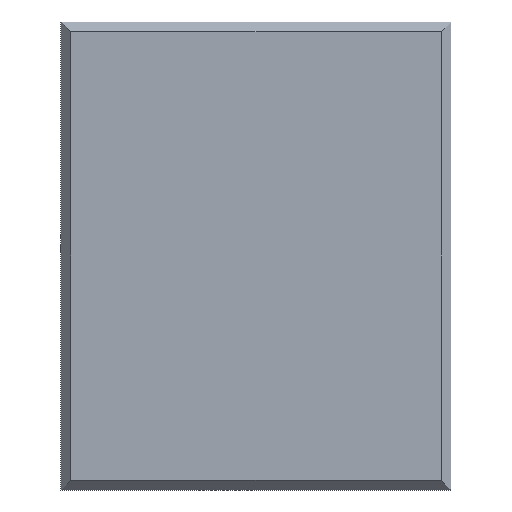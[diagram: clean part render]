
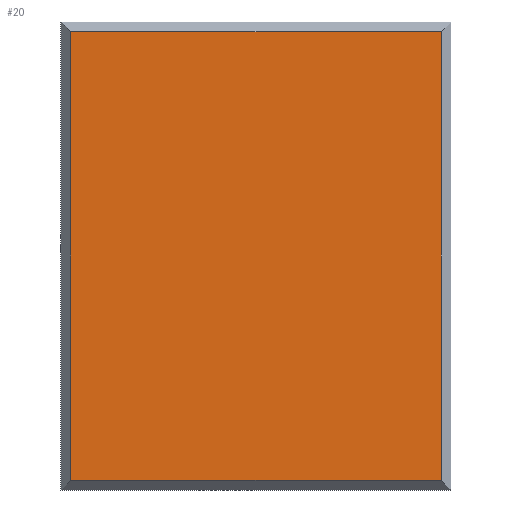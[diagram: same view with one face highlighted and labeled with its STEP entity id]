
A CAD part, front view. The second image highlights one B-rep face of the part: STEP entity #20.
In plain terms, the highlighted planar face has unit normal (0, -1, 0).
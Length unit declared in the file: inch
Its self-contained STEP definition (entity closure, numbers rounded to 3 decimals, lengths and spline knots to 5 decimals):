
#20=ADVANCED_FACE('',(#30),#142,.T.);
#30=FACE_OUTER_BOUND('',#40,.T.);
#40=EDGE_LOOP('',(#68,#69,#70,#71));
#68=ORIENTED_EDGE('',*,*,#84,.F.);
#69=ORIENTED_EDGE('',*,*,#95,.F.);
#70=ORIENTED_EDGE('',*,*,#91,.F.);
#71=ORIENTED_EDGE('',*,*,#88,.F.);
#84=EDGE_CURVE('',#124,#125,#104,.T.);
#88=EDGE_CURVE('',#125,#128,#108,.T.);
#91=EDGE_CURVE('',#128,#130,#111,.T.);
#95=EDGE_CURVE('',#130,#124,#115,.T.);
#104=B_SPLINE_CURVE_WITH_KNOTS('',1,(#285,#286),.UNSPECIFIED.,.F.,.F.,(2,
2),(0.,11.5),.UNSPECIFIED.);
#108=B_SPLINE_CURVE_WITH_KNOTS('',1,(#293,#294),.UNSPECIFIED.,.F.,.F.,(2,
2),(0.,9.5),.UNSPECIFIED.);
#111=B_SPLINE_CURVE_WITH_KNOTS('',1,(#299,#300),.UNSPECIFIED.,.F.,.F.,(2,
2),(0.,11.5),.UNSPECIFIED.);
#115=B_SPLINE_CURVE_WITH_KNOTS('',1,(#307,#308),.UNSPECIFIED.,.F.,.F.,(2,
2),(0.,9.5),.UNSPECIFIED.);
#124=VERTEX_POINT('',#273);
#125=VERTEX_POINT('',#274);
#128=VERTEX_POINT('',#277);
#130=VERTEX_POINT('',#279);
#142=PLANE('',#243);
#243=AXIS2_PLACEMENT_3D('',#269,#256,$);
#256=DIRECTION('',(0.,-1.,0.));
#269=CARTESIAN_POINT('',(-5.70472,-0.5,6.90472));
#273=CARTESIAN_POINT('',(-4.75,-0.5,-5.75));
#274=CARTESIAN_POINT('',(-4.75,-0.5,5.75));
#277=CARTESIAN_POINT('',(4.75,-0.5,5.75));
#279=CARTESIAN_POINT('',(4.75,-0.5,-5.75));
#285=CARTESIAN_POINT('',(-4.75,-0.5,-5.75));
#286=CARTESIAN_POINT('',(-4.75,-0.5,5.75));
#293=CARTESIAN_POINT('',(-4.75,-0.5,5.75));
#294=CARTESIAN_POINT('',(4.75,-0.5,5.75));
#299=CARTESIAN_POINT('',(4.75,-0.5,5.75));
#300=CARTESIAN_POINT('',(4.75,-0.5,-5.75));
#307=CARTESIAN_POINT('',(4.75,-0.5,-5.75));
#308=CARTESIAN_POINT('',(-4.75,-0.5,-5.75));
